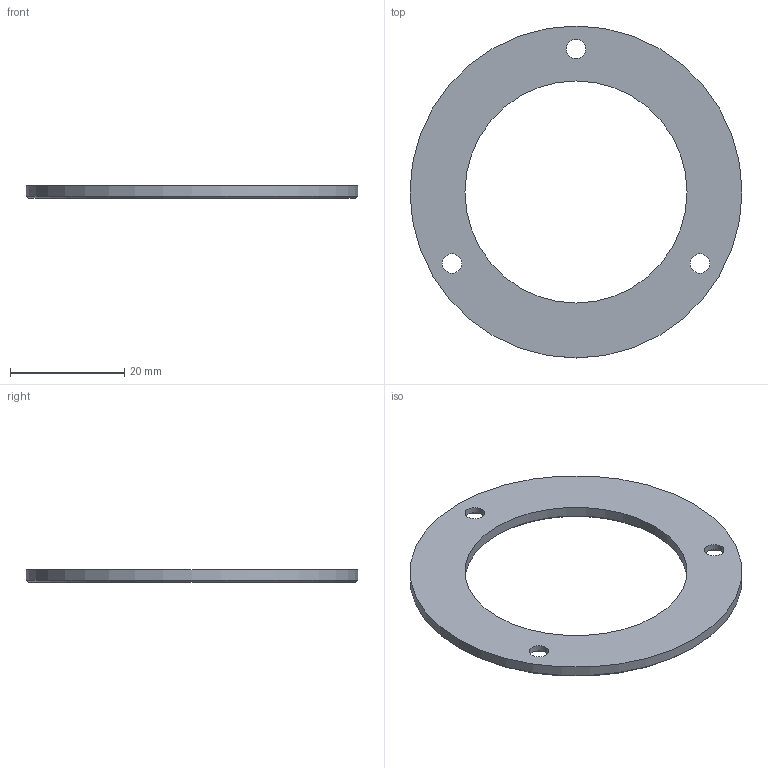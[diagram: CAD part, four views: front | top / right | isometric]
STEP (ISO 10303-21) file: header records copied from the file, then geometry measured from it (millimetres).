
FILE_DESCRIPTION(('Open CASCADE Model'),'2;1');
FILE_NAME('Open CASCADE Shape Model','2026-11-10T13:49:23',('Author'),( 'Open CASCADE'),'Open CASCADE STEP processor 7.9','Open CASCADE 7.9' ,'Unknown');
FILE_SCHEMA(('AUTOMOTIVE_DESIGN { 1 0 10303 214 1 1 1 1 }'));
Length unit declared in the file: millimetre
Products named in the file (2): bezel-model; bezel
Assembly tree (1 placements, depth 2):
  bezel-model
    bezel
Bounding box: 58 x 58 x 2.2 mm (x, y, z)
Volume: 3057.4 mm3; surface area: 3562.2 mm2
Topology: 1 solids, 1 shells, 15 faces, 28 edges, 18 vertices
Faces by surface type: cylinder 8, plane 5, cone 2
Full cylindrical faces by diameter (mm): 3.4 x3, 6.2 x3, 38.8 x1, 58 x1
Entity records: 819 total; most frequent: CARTESIAN_POINT 155, DIRECTION 130, ORIENTED_EDGE 56, PCURVE 56, DEFINITIONAL_REPRESENTATION 56, LINE 50, VECTOR 50, AXIS2_PLACEMENT_3D 35
